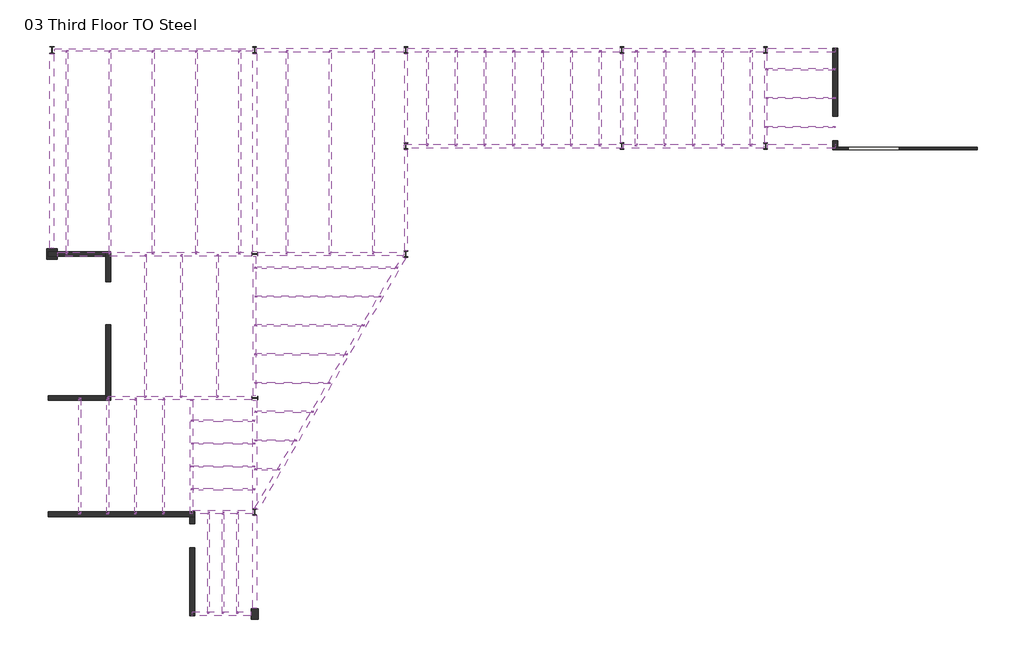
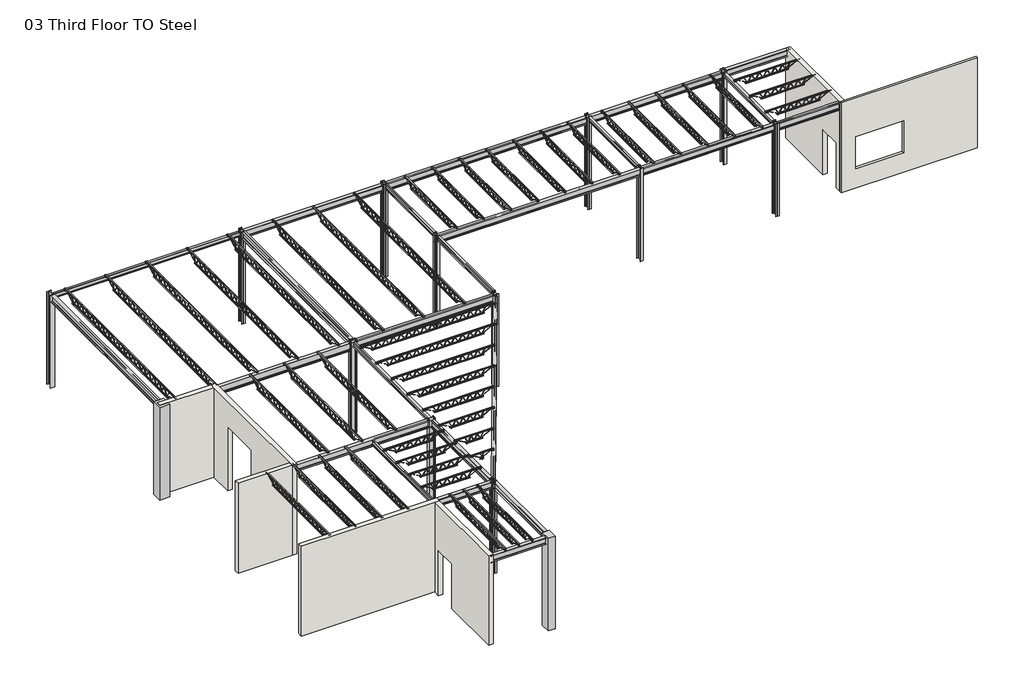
# One storey: 69 beams, 14 columns, 7 walls.
"""IFC4 building model written with IfcOpenShell, lengths in millimetres."""

from ifc_helpers import new_model, si_unit, frame, origin, place, context, project, spatial, polyline, outline, extrude, faceted_brep, transform, mapped, element, save
from components import k_series_bar_joist_angle_web_12k3_1ccca6b7, k_series_bar_joist_angle_web_12k3_cd6388da, k_series_bar_joist_angle_web_12k3_9aaf8e6d, k_series_bar_joist_angle_web_12k3_13094d3f, k_series_bar_joist_angle_web_12k3_59fd12ad, k_series_bar_joist_angle_web_12k3_20b2fc65, k_series_bar_joist_angle_web_12k3_ae5ab345, k_series_bar_joist_angle_web_12k3_0c52efd9, k_series_bar_joist_angle_web_12k3_6a532fcc, k_series_bar_joist_angle_web_12k3_6eb7fb9a, k_series_bar_joist_angle_web_12k3_374ad39a, k_series_bar_joist_angle_web_12k3_390ba880, k_series_bar_joist_angle_web_12k3_b1730def, k_series_bar_joist_angle_web_14k6_9ea650d1, k_series_bar_joist_angle_web_14k6_8be7365d, w_wide_flange_w12x26_9fd3e897, w_wide_flange_w12x26_f21817d3, w_wide_flange_w12x26_d3ba76c9, w_wide_flange_w12x26_1a46e80d, w_wide_flange_w12x26_7af0cc8f, w_wide_flange_w12x26_e92df5a3, w_wide_flange_w12x26_cbf4b631, w_wide_flange_w12x26_772186aa, w_wide_flange_w12x26_89bd5c3d, w_wide_flange_w12x26_dadc119a, w_wide_flange_w12x26_59120017, w_wide_flange_w12x26_bc60cd37, w_wide_flange_w12x26_1f94d798, w_wide_flange_w12x26_34b74df3, w_wide_flange_w14x30_5dc0e07a, w_wide_flange_w8x10_abd37cec, w_wide_flange_w8x10_7498d693, w_wide_flange_w8x10_dd5fc601, w_wide_flange_w8x10_8f1412b7, w_wide_flange_w8x10_b6c3ab94, column_3cd15463, column_094be883, w_wide_flange_column_w10x30_b382757e, w_wide_flange_column_w12x40_bfb7e602

model = new_model("IFC4")

# Units and contexts
model_context = context("Model", 3, world=origin())
ifc_project = project(units=[si_unit("LENGTHUNIT", "METRE", prefix="MILLI")], contexts=[model_context])

# Site, building, storey
site = spatial("IfcSite", under=ifc_project)
building = spatial("IfcBuilding", under=site)
storey = spatial("IfcBuildingStorey", under=building, Name="03 Third Floor TO Steel", Elevation=9017.0)

# Beams
placement = place(None, origin())
k_series_bar_joist_angle_web_12k3_shape = k_series_bar_joist_angle_web_12k3_1ccca6b7(model_context)
element("IfcBeam", 1, ObjectType="K-Series Bar Joist-Angle Web : 12K3", at=placement, inside=storey, context=model_context, shape_type="MappedRepresentation", body=[
    mapped(k_series_bar_joist_angle_web_12k3_shape, transform((3946.8726301, 6964.1746638, 13258.8), x_axis=(0.0, -1.0, 0.0), y_axis=(1.0, 0.0, 0.0), z_axis=(0.0, 0.0, 1.0))),
])
element("IfcBeam", 2, ObjectType="K-Series Bar Joist-Angle Web : 12K3", at=placement, inside=storey, context=model_context, shape_type="MappedRepresentation", body=[
    mapped(k_series_bar_joist_angle_web_12k3_shape, transform((2727.6726301, 6964.1746638, 13258.8), x_axis=(0.0, -1.0, 0.0), y_axis=(1.0, 0.0, 0.0), z_axis=(0.0, 0.0, 1.0))),
])
element("IfcBeam", 3, ObjectType="K-Series Bar Joist-Angle Web : 12K3", at=placement, inside=storey, context=model_context, shape_type="MappedRepresentation", body=[
    mapped(k_series_bar_joist_angle_web_12k3_shape, transform((1508.4726301, 6964.1746638, 13258.8), x_axis=(0.0, -1.0, 0.0), y_axis=(1.0, 0.0, 0.0), z_axis=(0.0, 0.0, 1.0))),
])
element("IfcBeam", 4, ObjectType="K-Series Bar Joist-Angle Web : 12K3", at=placement, inside=storey, context=model_context, shape_type="MappedRepresentation", body=[
    mapped(k_series_bar_joist_angle_web_12k3_shape, transform((289.2726301, 6964.1746638, 13258.8), x_axis=(0.0, -1.0, 0.0), y_axis=(1.0, 0.0, 0.0), z_axis=(0.0, 0.0, 1.0))),
])
element("IfcBeam", 5, ObjectType="K-Series Bar Joist-Angle Web : 12K3", at=placement, inside=storey, context=model_context, shape_type="MappedRepresentation", body=[
    mapped(k_series_bar_joist_angle_web_12k3_shape, transform((-929.9273699, 6964.1746638, 13258.8), x_axis=(0.0, -1.0, 0.0), y_axis=(1.0, 0.0, 0.0), z_axis=(0.0, 0.0, 1.0))),
])
element("IfcBeam", 6, ObjectType="K-Series Bar Joist-Angle Web : 12K3", at=placement, inside=storey, context=model_context, shape_type="MappedRepresentation", body=[
    mapped(k_series_bar_joist_angle_web_12k3_shape, transform((-2149.1273699, 6964.1746638, 13258.8), x_axis=(0.0, -1.0, 0.0), y_axis=(1.0, 0.0, 0.0), z_axis=(0.0, 0.0, 1.0))),
])
element("IfcBeam", 7, ObjectType="K-Series Bar Joist-Angle Web : 12K3", at=placement, inside=storey, context=model_context, shape_type="MappedRepresentation", body=[
    mapped(k_series_bar_joist_angle_web_12k3_shape, transform((-3368.3273699, 6964.1746638, 13258.8), x_axis=(0.0, -1.0, 0.0), y_axis=(1.0, 0.0, 0.0), z_axis=(0.0, 0.0, 1.0))),
])
element("IfcBeam", 8, ObjectType="K-Series Bar Joist-Angle Web : 12K3", at=placement, inside=storey, context=model_context, shape_type="MappedRepresentation", body=[
    mapped(k_series_bar_joist_angle_web_12k3_shape, transform((10347.6726301, 6964.1746638, 13258.8), x_axis=(0.0, -1.0, 0.0), y_axis=(1.0, 0.0, 0.0), z_axis=(0.0, 0.0, 1.0))),
])
element("IfcBeam", 9, ObjectType="K-Series Bar Joist-Angle Web : 12K3", at=placement, inside=storey, context=model_context, shape_type="MappedRepresentation", body=[
    mapped(k_series_bar_joist_angle_web_12k3_shape, transform((9128.4726301, 6964.1746638, 13258.8), x_axis=(0.0, -1.0, 0.0), y_axis=(1.0, 0.0, 0.0), z_axis=(0.0, 0.0, 1.0))),
])
element("IfcBeam", 10, ObjectType="K-Series Bar Joist-Angle Web : 12K3", at=placement, inside=storey, context=model_context, shape_type="MappedRepresentation", body=[
    mapped(k_series_bar_joist_angle_web_12k3_shape, transform((7909.2726301, 6964.1746638, 13258.8), x_axis=(0.0, -1.0, 0.0), y_axis=(1.0, 0.0, 0.0), z_axis=(0.0, 0.0, 1.0))),
])
element("IfcBeam", 11, ObjectType="K-Series Bar Joist-Angle Web : 12K3", at=placement, inside=storey, context=model_context, shape_type="MappedRepresentation", body=[
    mapped(k_series_bar_joist_angle_web_12k3_shape, transform((6690.0726301, 6964.1746638, 13258.8), x_axis=(0.0, -1.0, 0.0), y_axis=(1.0, 0.0, 0.0), z_axis=(0.0, 0.0, 1.0))),
])
element("IfcBeam", 12, ObjectType="K-Series Bar Joist-Angle Web : 12K3", at=placement, inside=storey, context=model_context, shape_type="MappedRepresentation", body=[
    mapped(k_series_bar_joist_angle_web_12k3_shape, transform((5470.8726301, 6964.1746638, 13258.8), x_axis=(0.0, -1.0, 0.0), y_axis=(1.0, 0.0, 0.0), z_axis=(0.0, 0.0, 1.0))),
])
k_series_bar_joist_angle_web_12k3_2_shape = k_series_bar_joist_angle_web_12k3_cd6388da(model_context)
element("IfcBeam", 13, ObjectType="K-Series Bar Joist-Angle Web : 12K3", at=placement, inside=storey, context=model_context, shape_type="MappedRepresentation", body=[
    mapped(k_series_bar_joist_angle_web_12k3_2_shape, transform((-12634.1838699, -12720.8253362, 13258.8), x_axis=(0.0, 1.0, 0.0), y_axis=(-1.0, 0.0, 0.0), z_axis=(0.0, 0.0, 1.0))),
])
element("IfcBeam", 14, ObjectType="K-Series Bar Joist-Angle Web : 12K3", at=placement, inside=storey, context=model_context, shape_type="MappedRepresentation", body=[
    mapped(k_series_bar_joist_angle_web_12k3_2_shape, transform((-12024.5838699, -12720.8253362, 13258.8), x_axis=(0.0, 1.0, 0.0), y_axis=(-1.0, 0.0, 0.0), z_axis=(0.0, 0.0, 1.0))),
])
element("IfcBeam", 15, ObjectType="K-Series Bar Joist-Angle Web : 12K3", at=placement, inside=storey, context=model_context, shape_type="MappedRepresentation", body=[
    mapped(k_series_bar_joist_angle_web_12k3_2_shape, transform((-11414.9838699, -12720.8253362, 13258.8), x_axis=(0.0, 1.0, 0.0), y_axis=(-1.0, 0.0, 0.0), z_axis=(0.0, 0.0, 1.0))),
])
k_series_bar_joist_angle_web_12k3_3_shape = k_series_bar_joist_angle_web_12k3_9aaf8e6d(model_context)
element("IfcBeam", 16, ObjectType="K-Series Bar Joist-Angle Web : 12K3", at=placement, inside=storey, context=model_context, shape_type="MappedRepresentation", body=[
    mapped(k_series_bar_joist_angle_web_12k3_3_shape, transform((-12023.1233699, -6701.0253362, 13258.8), x_axis=(1.0, 0.0, 0.0), y_axis=(0.0, 1.0, 0.0), z_axis=(0.0, 0.0, 1.0))),
])
element("IfcBeam", 17, ObjectType="K-Series Bar Joist-Angle Web : 12K3", at=placement, inside=storey, context=model_context, shape_type="MappedRepresentation", body=[
    mapped(k_series_bar_joist_angle_web_12k3_3_shape, transform((-12023.1233699, -7666.2253362, 13258.8), x_axis=(1.0, 0.0, 0.0), y_axis=(0.0, 1.0, 0.0), z_axis=(0.0, 0.0, 1.0))),
])
element("IfcBeam", 18, ObjectType="K-Series Bar Joist-Angle Web : 12K3", at=placement, inside=storey, context=model_context, shape_type="MappedRepresentation", body=[
    mapped(k_series_bar_joist_angle_web_12k3_3_shape, transform((-12023.1233699, -8631.4253362, 13258.8), x_axis=(1.0, 0.0, 0.0), y_axis=(0.0, 1.0, 0.0), z_axis=(0.0, 0.0, 1.0))),
])
element("IfcBeam", 19, ObjectType="K-Series Bar Joist-Angle Web : 12K3", at=placement, inside=storey, context=model_context, shape_type="MappedRepresentation", body=[
    mapped(k_series_bar_joist_angle_web_12k3_3_shape, transform((-12023.1233699, -9596.6253362, 13258.8), x_axis=(1.0, 0.0, 0.0), y_axis=(0.0, 1.0, 0.0), z_axis=(0.0, 0.0, 1.0))),
])
k_series_bar_joist_angle_web_12k3_4_shape = k_series_bar_joist_angle_web_12k3_13094d3f(model_context)
element("IfcBeam", 20, ObjectType="K-Series Bar Joist-Angle Web : 12K3", at=placement, inside=storey, context=model_context, shape_type="MappedRepresentation", body=[
    mapped(k_series_bar_joist_angle_web_12k3_4_shape, transform((12430.4726301, 8183.3746638, 13258.8), x_axis=(1.0, 0.0, 0.0), y_axis=(0.0, 1.0, 0.0), z_axis=(0.0, 0.0, 1.0))),
])
element("IfcBeam", 21, ObjectType="K-Series Bar Joist-Angle Web : 12K3", at=placement, inside=storey, context=model_context, shape_type="MappedRepresentation", body=[
    mapped(k_series_bar_joist_angle_web_12k3_4_shape, transform((12430.4726301, 6964.1746638, 13258.8), x_axis=(1.0, 0.0, 0.0), y_axis=(0.0, 1.0, 0.0), z_axis=(0.0, 0.0, 1.0))),
])
element("IfcBeam", 22, ObjectType="K-Series Bar Joist-Angle Web : 12K3", at=placement, inside=storey, context=model_context, shape_type="MappedRepresentation", body=[
    mapped(k_series_bar_joist_angle_web_12k3_4_shape, transform((12430.4726301, 5744.9746638, 13258.8), x_axis=(1.0, 0.0, 0.0), y_axis=(0.0, 1.0, 0.0), z_axis=(0.0, 0.0, 1.0))),
])
k_series_bar_joist_angle_web_12k3_5_shape = k_series_bar_joist_angle_web_12k3_59fd12ad(model_context)
element("IfcBeam", 23, ObjectType="K-Series Bar Joist-Angle Web : 12K3", at=placement, inside=storey, context=model_context, shape_type="MappedRepresentation", body=[
    mapped(k_series_bar_joist_angle_web_12k3_5_shape, transform((-18088.1099699, -8199.6253362, 13258.8), x_axis=(0.0, 1.0, 0.0), y_axis=(-1.0, 0.0, 0.0), z_axis=(0.0, 0.0, 1.0))),
])
element("IfcBeam", 24, ObjectType="K-Series Bar Joist-Angle Web : 12K3", at=placement, inside=storey, context=model_context, shape_type="MappedRepresentation", body=[
    mapped(k_series_bar_joist_angle_web_12k3_5_shape, transform((-16907.4925699, -8199.6253362, 13258.8), x_axis=(0.0, 1.0, 0.0), y_axis=(-1.0, 0.0, 0.0), z_axis=(0.0, 0.0, 1.0))),
])
element("IfcBeam", 25, ObjectType="K-Series Bar Joist-Angle Web : 12K3", at=placement, inside=storey, context=model_context, shape_type="MappedRepresentation", body=[
    mapped(k_series_bar_joist_angle_web_12k3_5_shape, transform((-15726.8751699, -8199.6253362, 13258.8), x_axis=(0.0, 1.0, 0.0), y_axis=(-1.0, 0.0, 0.0), z_axis=(0.0, 0.0, 1.0))),
])
element("IfcBeam", 26, ObjectType="K-Series Bar Joist-Angle Web : 12K3", at=placement, inside=storey, context=model_context, shape_type="MappedRepresentation", body=[
    mapped(k_series_bar_joist_angle_web_12k3_5_shape, transform((-14546.2577699, -8199.6253362, 13258.8), x_axis=(0.0, 1.0, 0.0), y_axis=(-1.0, 0.0, 0.0), z_axis=(0.0, 0.0, 1.0))),
])
k_series_bar_joist_angle_web_12k3_6_shape = k_series_bar_joist_angle_web_12k3_20b2fc65(model_context)
element("IfcBeam", 27, ObjectType="K-Series Bar Joist-Angle Web : 12K3", at=placement, inside=storey, context=model_context, shape_type="MappedRepresentation", body=[
    mapped(k_series_bar_joist_angle_web_12k3_6_shape, transform((-10152.8984804, -8755.9332132, 13258.8), x_axis=(-1.0, 0.0, 0.0), y_axis=(0.0, -1.0, 0.0), z_axis=(0.0, 0.0, 1.0))),
])
k_series_bar_joist_angle_web_12k3_7_shape = k_series_bar_joist_angle_web_12k3_ae5ab345(model_context)
element("IfcBeam", 28, ObjectType="K-Series Bar Joist-Angle Web : 12K3", at=placement, inside=storey, context=model_context, shape_type="MappedRepresentation", body=[
    mapped(k_series_bar_joist_angle_web_12k3_7_shape, transform((-9795.6445269, -7536.7332132, 13258.8), x_axis=(-1.0, 0.0, 0.0), y_axis=(0.0, -1.0, 0.0), z_axis=(0.0, 0.0, 1.0))),
])
k_series_bar_joist_angle_web_12k3_8_shape = k_series_bar_joist_angle_web_12k3_0c52efd9(model_context)
element("IfcBeam", 29, ObjectType="K-Series Bar Joist-Angle Web : 12K3", at=placement, inside=storey, context=model_context, shape_type="MappedRepresentation", body=[
    mapped(k_series_bar_joist_angle_web_12k3_8_shape, transform((-9438.3905734, -6317.5332132, 13258.8), x_axis=(-1.0, 0.0, 0.0), y_axis=(0.0, -1.0, 0.0), z_axis=(0.0, 0.0, 1.0))),
])
k_series_bar_joist_angle_web_12k3_9_shape = k_series_bar_joist_angle_web_12k3_6a532fcc(model_context)
element("IfcBeam", 30, ObjectType="K-Series Bar Joist-Angle Web : 12K3", at=placement, inside=storey, context=model_context, shape_type="MappedRepresentation", body=[
    mapped(k_series_bar_joist_angle_web_12k3_9_shape, transform((-9083.6766199, -5098.3332132, 13258.8), x_axis=(-1.0, 0.0, 0.0), y_axis=(0.0, -1.0, 0.0), z_axis=(0.0, 0.0, 1.0))),
])
k_series_bar_joist_angle_web_12k3_10_shape = k_series_bar_joist_angle_web_12k3_6eb7fb9a(model_context)
element("IfcBeam", 31, ObjectType="K-Series Bar Joist-Angle Web : 12K3", at=placement, inside=storey, context=model_context, shape_type="MappedRepresentation", body=[
    mapped(k_series_bar_joist_angle_web_12k3_10_shape, transform((-8726.4226665, -3879.1332132, 13258.8), x_axis=(-1.0, 0.0, 0.0), y_axis=(0.0, -1.0, 0.0), z_axis=(0.0, 0.0, 1.0))),
])
k_series_bar_joist_angle_web_12k3_11_shape = k_series_bar_joist_angle_web_12k3_374ad39a(model_context)
element("IfcBeam", 32, ObjectType="K-Series Bar Joist-Angle Web : 12K3", at=placement, inside=storey, context=model_context, shape_type="MappedRepresentation", body=[
    mapped(k_series_bar_joist_angle_web_12k3_11_shape, transform((-8369.168713, -2659.9332132, 13258.8), x_axis=(-1.0, 0.0, 0.0), y_axis=(0.0, -1.0, 0.0), z_axis=(0.0, 0.0, 1.0))),
])
k_series_bar_joist_angle_web_12k3_12_shape = k_series_bar_joist_angle_web_12k3_390ba880(model_context)
element("IfcBeam", 33, ObjectType="K-Series Bar Joist-Angle Web : 12K3", at=placement, inside=storey, context=model_context, shape_type="MappedRepresentation", body=[
    mapped(k_series_bar_joist_angle_web_12k3_12_shape, transform((-8011.9147595, -1440.7332132, 13258.8), x_axis=(-1.0, 0.0, 0.0), y_axis=(0.0, -1.0, 0.0), z_axis=(0.0, 0.0, 1.0))),
])
k_series_bar_joist_angle_web_12k3_13_shape = k_series_bar_joist_angle_web_12k3_b1730def(model_context)
element("IfcBeam", 34, ObjectType="K-Series Bar Joist-Angle Web : 12K3", at=placement, inside=storey, context=model_context, shape_type="MappedRepresentation", body=[
    mapped(k_series_bar_joist_angle_web_12k3_13_shape, transform((-7654.660806, -221.5332132, 13258.8), x_axis=(-1.0, 0.0, 0.0), y_axis=(0.0, -1.0, 0.0), z_axis=(0.0, 0.0, 1.0))),
])
k_series_bar_joist_angle_web_14k6_shape = k_series_bar_joist_angle_web_14k6_9ea650d1(model_context)
element("IfcBeam", 35, ObjectType="K-Series Bar Joist-Angle Web : 14K6", at=placement, inside=storey, context=model_context, shape_type="MappedRepresentation", body=[
    mapped(k_series_bar_joist_angle_web_14k6_shape, transform((-9311.9273699, 4678.1746638, 13233.4), x_axis=(0.0, 1.0, 0.0), y_axis=(-1.0, 0.0, 0.0), z_axis=(0.0, 0.0, 1.0))),
])
element("IfcBeam", 36, ObjectType="K-Series Bar Joist-Angle Web : 14K6", at=placement, inside=storey, context=model_context, shape_type="MappedRepresentation", body=[
    mapped(k_series_bar_joist_angle_web_14k6_shape, transform((-7483.1273699, 4678.1746638, 13233.4), x_axis=(0.0, 1.0, 0.0), y_axis=(-1.0, 0.0, 0.0), z_axis=(0.0, 0.0, 1.0))),
])
element("IfcBeam", 37, ObjectType="K-Series Bar Joist-Angle Web : 14K6", at=placement, inside=storey, context=model_context, shape_type="MappedRepresentation", body=[
    mapped(k_series_bar_joist_angle_web_14k6_shape, transform((-5654.3273699, 4678.1746638, 13233.4), x_axis=(0.0, 1.0, 0.0), y_axis=(-1.0, 0.0, 0.0), z_axis=(0.0, 0.0, 1.0))),
])
k_series_bar_joist_angle_web_14k6_2_shape = k_series_bar_joist_angle_web_14k6_8be7365d(model_context)
element("IfcBeam", 38, ObjectType="K-Series Bar Joist-Angle Web : 14K6", at=placement, inside=storey, context=model_context, shape_type="MappedRepresentation", body=[
    mapped(k_series_bar_joist_angle_web_14k6_2_shape, transform((-12258.3273699, -2687.8253362, 13233.4), x_axis=(0.0, -1.0, 0.0), y_axis=(1.0, 0.0, 0.0), z_axis=(0.0, 0.0, 1.0))),
])
element("IfcBeam", 39, ObjectType="K-Series Bar Joist-Angle Web : 14K6", at=placement, inside=storey, context=model_context, shape_type="MappedRepresentation", body=[
    mapped(k_series_bar_joist_angle_web_14k6_2_shape, transform((-13782.3273699, -2687.8253362, 13233.4), x_axis=(0.0, -1.0, 0.0), y_axis=(1.0, 0.0, 0.0), z_axis=(0.0, 0.0, 1.0))),
])
element("IfcBeam", 40, ObjectType="K-Series Bar Joist-Angle Web : 14K6", at=placement, inside=storey, context=model_context, shape_type="MappedRepresentation", body=[
    mapped(k_series_bar_joist_angle_web_14k6_2_shape, transform((-15306.3273699, -2687.8253362, 13233.4), x_axis=(0.0, -1.0, 0.0), y_axis=(1.0, 0.0, 0.0), z_axis=(0.0, 0.0, 1.0))),
])
element("IfcBeam", 41, ObjectType="K-Series Bar Joist-Angle Web : 14K6", at=placement, inside=storey, context=model_context, shape_type="MappedRepresentation", body=[
    mapped(k_series_bar_joist_angle_web_14k6_shape, transform((-18633.7273699, 4678.1746638, 13233.4), x_axis=(0.0, 1.0, 0.0), y_axis=(-1.0, 0.0, 0.0), z_axis=(0.0, 0.0, 1.0))),
])
element("IfcBeam", 42, ObjectType="K-Series Bar Joist-Angle Web : 14K6", at=placement, inside=storey, context=model_context, shape_type="MappedRepresentation", body=[
    mapped(k_series_bar_joist_angle_web_14k6_shape, transform((-16804.9273699, 4678.1746638, 13233.4), x_axis=(0.0, 1.0, 0.0), y_axis=(-1.0, 0.0, 0.0), z_axis=(0.0, 0.0, 1.0))),
])
element("IfcBeam", 43, ObjectType="K-Series Bar Joist-Angle Web : 14K6", at=placement, inside=storey, context=model_context, shape_type="MappedRepresentation", body=[
    mapped(k_series_bar_joist_angle_web_14k6_shape, transform((-14976.1273699, 4678.1746638, 13233.4), x_axis=(0.0, 1.0, 0.0), y_axis=(-1.0, 0.0, 0.0), z_axis=(0.0, 0.0, 1.0))),
])
element("IfcBeam", 44, ObjectType="K-Series Bar Joist-Angle Web : 14K6", at=placement, inside=storey, context=model_context, shape_type="MappedRepresentation", body=[
    mapped(k_series_bar_joist_angle_web_14k6_shape, transform((-13147.3273699, 4678.1746638, 13233.4), x_axis=(0.0, 1.0, 0.0), y_axis=(-1.0, 0.0, 0.0), z_axis=(0.0, 0.0, 1.0))),
])
element("IfcBeam", 45, ObjectType="K-Series Bar Joist-Angle Web : 14K6", at=placement, inside=storey, context=model_context, shape_type="MappedRepresentation", body=[
    mapped(k_series_bar_joist_angle_web_14k6_shape, transform((-11318.5273699, 4678.1746638, 13233.4), x_axis=(0.0, 1.0, 0.0), y_axis=(-1.0, 0.0, 0.0), z_axis=(0.0, 0.0, 1.0))),
])
w_wide_flange_w12x26_shape = w_wide_flange_w12x26_9fd3e897(model_context)
element("IfcBeam", 46, ObjectType="W-Wide Flange : W12x26", at=placement, inside=storey, context=model_context, shape_type="MappedRepresentation", body=[
    mapped(w_wide_flange_w12x26_shape, transform((7909.2726301, 8996.1746638, 13192.76), x_axis=(1.0, 0.0, 0.0), y_axis=(0.0, 1.0, 0.0), z_axis=(0.0, 0.0, 1.0))),
])
element("IfcBeam", 47, ObjectType="W-Wide Flange : W12x26", at=placement, inside=storey, context=model_context, shape_type="MappedRepresentation", body=[
    mapped(w_wide_flange_w12x26_shape, transform((7909.2726301, 4932.1746638, 13192.76), x_axis=(1.0, 0.0, 0.0), y_axis=(0.0, 1.0, 0.0), z_axis=(0.0, 0.0, 1.0))),
])
w_wide_flange_w12x26_2_shape = w_wide_flange_w12x26_f21817d3(model_context)
element("IfcBeam", 48, ObjectType="W-Wide Flange : W12x26", at=placement, inside=storey, context=model_context, shape_type="MappedRepresentation", body=[
    mapped(w_wide_flange_w12x26_2_shape, transform((-7457.7273699, 8996.1746638, 13192.76), x_axis=(1.0, 0.0, 0.0), y_axis=(0.0, 1.0, 0.0), z_axis=(0.0, 0.0, 1.0))),
])
w_wide_flange_w12x26_3_shape = w_wide_flange_w12x26_d3ba76c9(model_context)
element("IfcBeam", 49, ObjectType="W-Wide Flange : W12x26", at=placement, inside=storey, context=model_context, shape_type="MappedRepresentation", body=[
    mapped(w_wide_flange_w12x26_3_shape, transform((-10680.6063699, -8150.0215712, 13192.76), x_axis=(0.0, -1.0, 0.0), y_axis=(1.0, 0.0, 0.0), z_axis=(0.0, 0.0, 1.0))),
])
w_wide_flange_w12x26_4_shape = w_wide_flange_w12x26_1a46e80d(model_context)
element("IfcBeam", 50, ObjectType="W-Wide Flange : W12x26", at=placement, inside=storey, context=model_context, shape_type="MappedRepresentation", body=[
    mapped(w_wide_flange_w12x26_4_shape, transform((289.2726301, 4932.1746638, 13192.76), x_axis=(1.0, 0.0, 0.0), y_axis=(0.0, 1.0, 0.0), z_axis=(0.0, 0.0, 1.0))),
])
w_wide_flange_w12x26_5_shape = w_wide_flange_w12x26_7af0cc8f(model_context)
element("IfcBeam", 51, ObjectType="W-Wide Flange : W12x26", at=placement, inside=storey, context=model_context, shape_type="MappedRepresentation", body=[
    mapped(w_wide_flange_w12x26_5_shape, transform((-19268.7273699, 4678.1746638, 13256.26), x_axis=(0.0, 1.0, 0.0), y_axis=(-1.0, 0.0, 0.0), z_axis=(0.0, 0.0, 1.0))),
])
w_wide_flange_w12x26_6_shape = w_wide_flange_w12x26_e92df5a3(model_context)
element("IfcBeam", 52, ObjectType="W-Wide Flange : W12x26", at=placement, inside=storey, context=model_context, shape_type="MappedRepresentation", body=[
    mapped(w_wide_flange_w12x26_6_shape, transform((-12004.3273699, -14879.8253362, 13192.76), x_axis=(-1.0, 0.0, 0.0), y_axis=(0.0, -1.0, 0.0), z_axis=(0.0, 0.0, 1.0))),
])
w_wide_flange_w12x26_7_shape = w_wide_flange_w12x26_cbf4b631(model_context)
element("IfcBeam", 53, ObjectType="W-Wide Flange : W12x26", at=placement, inside=storey, context=model_context, shape_type="MappedRepresentation", body=[
    mapped(w_wide_flange_w12x26_7_shape, transform((12430.4726301, 8996.1746638, 13256.26), x_axis=(1.0, 0.0, 0.0), y_axis=(0.0, 1.0, 0.0), z_axis=(0.0, 0.0, 1.0))),
])
element("IfcBeam", 54, ObjectType="W-Wide Flange : W12x26", at=placement, inside=storey, context=model_context, shape_type="MappedRepresentation", body=[
    mapped(w_wide_flange_w12x26_7_shape, transform((12430.4726301, 4932.1746638, 13192.76), x_axis=(1.0, 0.0, 0.0), y_axis=(0.0, 1.0, 0.0), z_axis=(0.0, 0.0, 1.0))),
])
w_wide_flange_w12x26_8_shape = w_wide_flange_w12x26_772186aa(model_context)
element("IfcBeam", 55, ObjectType="W-Wide Flange : W12x26", at=placement, inside=storey, context=model_context, shape_type="MappedRepresentation", body=[
    mapped(w_wide_flange_w12x26_8_shape, transform((-13718.8273699, -5735.8253362, 13192.76), x_axis=(-1.0, 0.0, 0.0), y_axis=(0.0, -1.0, 0.0), z_axis=(0.0, 0.0, 1.0))),
])
w_wide_flange_w12x26_9_shape = w_wide_flange_w12x26_89bd5c3d(model_context)
element("IfcBeam", 56, ObjectType="W-Wide Flange : W12x26", at=placement, inside=storey, context=model_context, shape_type="MappedRepresentation", body=[
    mapped(w_wide_flange_w12x26_9_shape, transform((-11999.1838699, -10561.8253362, 13192.76), x_axis=(-1.0, 0.0, 0.0), y_axis=(0.0, -1.0, 0.0), z_axis=(0.0, 0.0, 1.0))),
])
w_wide_flange_w12x26_10_shape = w_wide_flange_w12x26_dadc119a(model_context)
element("IfcBeam", 57, ObjectType="W-Wide Flange : W12x26", at=placement, inside=storey, context=model_context, shape_type="MappedRepresentation", body=[
    mapped(w_wide_flange_w12x26_10_shape, transform((-10686.4483699, -12720.6931113, 13256.26), x_axis=(0.0, 1.0, 0.0), y_axis=(-1.0, 0.0, 0.0), z_axis=(0.0, 0.0, 1.0))),
])
w_wide_flange_w12x26_11_shape = w_wide_flange_w12x26_59120017(model_context)
element("IfcBeam", 58, ObjectType="W-Wide Flange : W12x26", at=placement, inside=storey, context=model_context, shape_type="MappedRepresentation", body=[
    mapped(w_wide_flange_w12x26_11_shape, transform((289.2726301, 8996.1746638, 13192.76), x_axis=(1.0, 0.0, 0.0), y_axis=(0.0, 1.0, 0.0), z_axis=(0.0, 0.0, 1.0))),
])
w_wide_flange_w12x26_12_shape = w_wide_flange_w12x26_bc60cd37(model_context)
element("IfcBeam", 59, ObjectType="W-Wide Flange : W12x26", at=placement, inside=storey, context=model_context, shape_type="MappedRepresentation", body=[
    mapped(w_wide_flange_w12x26_12_shape, transform((-7483.1273699, 360.1746638, 13192.76), x_axis=(-1.0, 0.0, 0.0), y_axis=(0.0, -1.0, 0.0), z_axis=(0.0, 0.0, 1.0))),
])
w_wide_flange_w12x26_13_shape = w_wide_flange_w12x26_1f94d798(model_context)
element("IfcBeam", 60, ObjectType="W-Wide Flange : W12x26", at=placement, inside=storey, context=model_context, shape_type="MappedRepresentation", body=[
    mapped(w_wide_flange_w12x26_13_shape, transform((-7483.1273699, -5100.8253362, 13192.76), x_axis=(0.5056165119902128, 0.862758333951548, 0.0), y_axis=(-0.862758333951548, 0.5056165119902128, 0.0), z_axis=(0.0, 0.0, 1.0))),
])
w_wide_flange_w12x26_14_shape = w_wide_flange_w12x26_34b74df3(model_context)
element("IfcBeam", 61, ObjectType="W-Wide Flange : W12x26", at=placement, inside=storey, context=model_context, shape_type="MappedRepresentation", body=[
    mapped(w_wide_flange_w12x26_14_shape, transform((-10686.9563699, 4678.2392838, 13256.26), x_axis=(0.0, 1.0, 0.0), y_axis=(-1.0, 0.0, 0.0), z_axis=(0.0, 0.0, 1.0))),
])
w_wide_flange_w14x30_shape = w_wide_flange_w14x30_5dc0e07a(model_context)
element("IfcBeam", 62, ObjectType="W-Wide Flange : W14x30", at=placement, inside=storey, context=model_context, shape_type="MappedRepresentation", body=[
    mapped(w_wide_flange_w14x30_shape, transform((-14976.1273699, 360.1746638, 13172.44), x_axis=(-1.0, 0.0, 0.0), y_axis=(0.0, -1.0, 0.0), z_axis=(0.0, 0.0, 1.0))),
])
w_wide_flange_w8x10_shape = w_wide_flange_w8x10_abd37cec(model_context)
element("IfcBeam", 63, ObjectType="W-Wide Flange : W8x10", at=placement, inside=storey, context=model_context, shape_type="MappedRepresentation", body=[
    mapped(w_wide_flange_w8x10_shape, transform((-4282.7273699, 6964.1746638, 13310.997), x_axis=(0.0, -1.0, 0.0), y_axis=(1.0, 0.0, 0.0), z_axis=(0.0, 0.0, 1.0))),
])
element("IfcBeam", 64, ObjectType="W-Wide Flange : W8x10", at=placement, inside=storey, context=model_context, shape_type="MappedRepresentation", body=[
    mapped(w_wide_flange_w8x10_shape, transform((4861.2726301, 6964.1746638, 13310.997), x_axis=(0.0, -1.0, 0.0), y_axis=(1.0, 0.0, 0.0), z_axis=(0.0, 0.0, 1.0))),
])
element("IfcBeam", 65, ObjectType="W-Wide Flange : W8x10", at=placement, inside=storey, context=model_context, shape_type="MappedRepresentation", body=[
    mapped(w_wide_flange_w8x10_shape, transform((10957.2726301, 6964.1746638, 13247.497), x_axis=(0.0, -1.0, 0.0), y_axis=(1.0, 0.0, 0.0), z_axis=(0.0, 0.0, 1.0))),
])
w_wide_flange_w8x10_2_shape = w_wide_flange_w8x10_7498d693(model_context)
element("IfcBeam", 66, ObjectType="W-Wide Flange : W8x10", at=placement, inside=storey, context=model_context, shape_type="MappedRepresentation", body=[
    mapped(w_wide_flange_w8x10_2_shape, transform((-4282.7273699, 2646.1746638, 13310.997), x_axis=(0.0, 1.0, 0.0), y_axis=(-1.0, 0.0, 0.0), z_axis=(0.0, 0.0, 1.0))),
])
w_wide_flange_w8x10_3_shape = w_wide_flange_w8x10_dd5fc601(model_context)
element("IfcBeam", 67, ObjectType="W-Wide Flange : W8x10", at=placement, inside=storey, context=model_context, shape_type="MappedRepresentation", body=[
    mapped(w_wide_flange_w8x10_3_shape, transform((-10685.6863699, -2688.4642356, 13247.497), x_axis=(0.0, 1.0, 0.0), y_axis=(-1.0, 0.0, 0.0), z_axis=(0.0, 0.0, 1.0))),
])
w_wide_flange_w8x10_4_shape = w_wide_flange_w8x10_8f1412b7(model_context)
element("IfcBeam", 68, ObjectType="W-Wide Flange : W8x10", at=placement, inside=storey, context=model_context, shape_type="MappedRepresentation", body=[
    mapped(w_wide_flange_w8x10_4_shape, transform((-13365.6403699, -8148.8253362, 13247.497), x_axis=(0.0, 1.0, 0.0), y_axis=(-1.0, 0.0, 0.0), z_axis=(0.0, 0.0, 1.0))),
])
w_wide_flange_w8x10_5_shape = w_wide_flange_w8x10_b6c3ab94(model_context)
element("IfcBeam", 69, ObjectType="W-Wide Flange : W8x10", at=placement, inside=storey, context=model_context, shape_type="MappedRepresentation", body=[
    mapped(w_wide_flange_w8x10_5_shape, transform((-14950.7273699, 8996.1746638, 13247.497), x_axis=(1.0, 0.0, 0.0), y_axis=(0.0, 1.0, 0.0), z_axis=(0.0, 0.0, 1.0))),
])

# Columns
column_shape = column_3cd15463(model_context)
element("IfcColumn", 70, ObjectType="Concrete-Rectangular-Column : CIP Column_C2_18\" x 18\"", at=placement, inside=storey, context=model_context, shape_type="MappedRepresentation", body=[
    mapped(column_shape, transform((-19268.7273699, 360.1746638, 0.0), x_axis=(1.0, 0.0, 0.0), y_axis=(0.0, 1.0, 0.0), z_axis=(0.0, 0.0, 1.0))),
])
column_2_shape = column_094be883(model_context)
element("IfcColumn", 71, ObjectType="Concrete-Rectangular-Column : CIP Column_C4_12\" x 18\"", at=placement, inside=storey, context=model_context, shape_type="MappedRepresentation", body=[
    mapped(column_2_shape, transform((-10683.5273699, -14879.8253362, 0.0), x_axis=(1.0, 0.0, 0.0), y_axis=(0.0, 1.0, 0.0), z_axis=(0.0, 0.0, 1.0))),
])
w_wide_flange_column_w10x30_shape = w_wide_flange_column_w10x30_b382757e(model_context)
element("IfcColumn", 72, ObjectType="W-Wide Flange-Column : W10X30", at=placement, inside=storey, context=model_context, shape_type="MappedRepresentation", body=[
    mapped(w_wide_flange_column_w10x30_shape, transform((-10683.5273699, 360.1746638, 0.0), x_axis=(0.0, 1.0, 0.0), y_axis=(-1.0, 0.0, 0.0), z_axis=(0.0, 0.0, 1.0))),
])
element("IfcColumn", 73, ObjectType="W-Wide Flange-Column : W10X30", at=placement, inside=storey, context=model_context, shape_type="MappedRepresentation", body=[
    mapped(w_wide_flange_column_w10x30_shape, transform((-10683.5273699, 8996.1746638, 0.0), x_axis=(-1.0, 0.0, 0.0), y_axis=(0.0, -1.0, 0.0), z_axis=(0.0, 0.0, 1.0))),
])
element("IfcColumn", 74, ObjectType="W-Wide Flange-Column : W10X30", at=placement, inside=storey, context=model_context, shape_type="MappedRepresentation", body=[
    mapped(w_wide_flange_column_w10x30_shape, transform((-4282.7273699, 8996.1746638, 0.0), x_axis=(-1.0, 0.0, 0.0), y_axis=(0.0, -1.0, 0.0), z_axis=(0.0, 0.0, 1.0))),
])
element("IfcColumn", 75, ObjectType="W-Wide Flange-Column : W10X30", at=placement, inside=storey, context=model_context, shape_type="MappedRepresentation", body=[
    mapped(w_wide_flange_column_w10x30_shape, transform((4861.2726301, 8996.1746638, 0.0), x_axis=(-1.0, 0.0, 0.0), y_axis=(0.0, -1.0, 0.0), z_axis=(0.0, 0.0, 1.0))),
])
element("IfcColumn", 76, ObjectType="W-Wide Flange-Column : W10X30", at=placement, inside=storey, context=model_context, shape_type="MappedRepresentation", body=[
    mapped(w_wide_flange_column_w10x30_shape, transform((10957.2726301, 8996.1746638, 0.0), x_axis=(-1.0, 0.0, 0.0), y_axis=(0.0, -1.0, 0.0), z_axis=(0.0, 0.0, 1.0))),
])
element("IfcColumn", 77, ObjectType="W-Wide Flange-Column : W10X30", at=placement, inside=storey, context=model_context, shape_type="MappedRepresentation", body=[
    mapped(w_wide_flange_column_w10x30_shape, transform((-10683.5273699, -5735.8253362, 0.0), x_axis=(0.0, 1.0, 0.0), y_axis=(-1.0, 0.0, 0.0), z_axis=(0.0, 0.0, 1.0))),
])
element("IfcColumn", 78, ObjectType="W-Wide Flange-Column : W10X30", at=placement, inside=storey, context=model_context, shape_type="MappedRepresentation", body=[
    mapped(w_wide_flange_column_w10x30_shape, transform((-10683.5273699, -10561.8253362, 0.0), x_axis=(-1.0, 0.0, 0.0), y_axis=(0.0, -1.0, 0.0), z_axis=(0.0, 0.0, 1.0))),
])
element("IfcColumn", 79, ObjectType="W-Wide Flange-Column : W10X30", at=placement, inside=storey, context=model_context, shape_type="MappedRepresentation", body=[
    mapped(w_wide_flange_column_w10x30_shape, transform((-4282.7273699, 4932.1746638, 0.0), x_axis=(1.0, 0.0, 0.0), y_axis=(0.0, 1.0, 0.0), z_axis=(0.0, 0.0, 1.0))),
])
element("IfcColumn", 80, ObjectType="W-Wide Flange-Column : W10X30", at=placement, inside=storey, context=model_context, shape_type="MappedRepresentation", body=[
    mapped(w_wide_flange_column_w10x30_shape, transform((4861.2726301, 4932.1746638, 0.0), x_axis=(1.0, 0.0, 0.0), y_axis=(0.0, 1.0, 0.0), z_axis=(0.0, 0.0, 1.0))),
])
element("IfcColumn", 81, ObjectType="W-Wide Flange-Column : W10X30", at=placement, inside=storey, context=model_context, shape_type="MappedRepresentation", body=[
    mapped(w_wide_flange_column_w10x30_shape, transform((10957.2726301, 4932.1746638, 0.0), x_axis=(1.0, 0.0, 0.0), y_axis=(0.0, 1.0, 0.0), z_axis=(0.0, 0.0, 1.0))),
])
element("IfcColumn", 82, ObjectType="W-Wide Flange-Column : W10X30", at=placement, inside=storey, context=model_context, shape_type="MappedRepresentation", body=[
    mapped(w_wide_flange_column_w10x30_shape, transform((-4282.7273699, 360.1746638, 0.0), x_axis=(1.0, 0.0, 0.0), y_axis=(0.0, 1.0, 0.0), z_axis=(0.0, 0.0, 1.0))),
])
w_wide_flange_column_w12x40_shape = w_wide_flange_column_w12x40_bfb7e602(model_context)
element("IfcColumn", 83, ObjectType="W-Wide Flange-Column : W12X40", at=placement, inside=storey, context=model_context, shape_type="MappedRepresentation", body=[
    mapped(w_wide_flange_column_w12x40_shape, transform((-19268.7273699, 8996.1746638, 0.0), x_axis=(1.0, 0.0, 0.0), y_axis=(0.0, 1.0, 0.0), z_axis=(0.0, 0.0, 1.0))),
])

# Walls
element("IfcWall", 84, ObjectType="Shear Wall_S1_4 1/4\" CIP", at=placement, inside=storey, context=model_context, shape_type="Brep", body=[
    faceted_brep([(13802.0726301, 4773.4246638, 9144.0), (19923.4726301, 4773.4246638, 9144.0), (19923.4726301, 4773.4246638, 13411.2), (13802.0726301, 4773.4246638, 13411.2), (14449.7726301, 4773.4246638, 11582.4), (16608.7726301, 4773.4246638, 11582.4), (16608.7726301, 4773.4246638, 10058.4), (14449.7726301, 4773.4246638, 10058.4), (19923.4726301, 4881.3746638, 9144.0), (14005.2726301, 4881.3746638, 9144.0), (13802.0726301, 4881.3746638, 9144.0), (13802.0726301, 4881.3746638, 13411.2), (14005.2726301, 4881.3746638, 13411.2), (19923.4726301, 4881.3746638, 13411.2), (16608.7726301, 4881.3746638, 11582.4), (14449.7726301, 4881.3746638, 11582.4), (14449.7726301, 4881.3746638, 10058.4), (16608.7726301, 4881.3746638, 10058.4)], [[[0, 1, 2, 3], [4, 5, 6, 7]], [[8, 9, 10, 11, 12, 13], [14, 15, 16, 17]], [[1, 0, 10, 9, 8]], [[2, 1, 8, 13]], [[3, 2, 13, 12, 11]], [[4, 15, 14, 5]], [[6, 17, 16, 7]], [[15, 4, 7, 16]], [[5, 14, 17, 6]], [[0, 3, 11, 10]]]),
])
element("IfcWall", 85, ObjectType="Shear Wall_S1_8\" CIP", at=placement, inside=storey, context=model_context, shape_type="Brep", body=[
    faceted_brep([(-16982.7273699, -5837.4253362, 9144.0), (-16982.7273699, -5837.4253362, 13411.2), (-16982.7273699, -5634.2253362, 13411.2), (-16982.7273699, 258.5746638, 13411.2), (-16982.7273699, 461.7746638, 13411.2), (-16982.7273699, 461.7746638, 9144.0), (-16982.7273699, 258.5746638, 9144.0), (-16982.7273699, -808.2253362, 9144.0), (-16982.7273699, -808.2253362, 12192.0), (-16982.7273699, -2637.0253362, 12192.0), (-16982.7273699, -2637.0253362, 9144.0), (-16982.7273699, -5634.2253362, 9144.0), (-16779.5273699, -5837.4253362, 13411.2), (-16779.5273699, -5837.4253362, 9144.0), (-16779.5273699, -2637.0253362, 9144.0), (-16779.5273699, -2637.0253362, 12192.0), (-16779.5273699, -808.2253362, 12192.0), (-16779.5273699, -808.2253362, 9144.0), (-16779.5273699, 461.7746638, 9144.0), (-16779.5273699, 461.7746638, 13411.2)], [[[0, 1, 2, 3, 4, 5, 6, 7, 8, 9, 10, 11]], [[12, 13, 14, 15, 16, 17, 18, 19]], [[13, 0, 11, 10, 14]], [[5, 18, 17, 7, 6]], [[4, 3, 2, 1, 12, 19]], [[8, 16, 15, 9]], [[16, 8, 7, 17]], [[9, 15, 14, 10]], [[1, 0, 13, 12]], [[5, 4, 19, 18]]]),
])
element("IfcWall", 86, ObjectType="Shear Wall_S1_8\" CIP", at=placement, inside=storey, context=model_context, shape_type="SweptSolid", body=[
    extrude(outline(polyline([(-19421.1273699, -5634.2253362), (-16982.7273699, -5634.2253362), (-16982.7273699, -5837.4253362), (-19421.1273699, -5837.4253362), (-19421.1273699, -5634.2253362)])), frame((0.0, 0.0, 9144.0), z_axis=(0.0, 0.0, 1.0), x_axis=(1.0, 0.0, 0.0)), (0.0, 0.0, 1.0), 4267.2),
])
element("IfcWall", 87, ObjectType="Shear Wall_S1_8\" CIP", at=placement, inside=storey, context=model_context, shape_type="Brep", body=[
    faceted_brep([(-19421.1273699, -10765.0253362, 9144.0), (-13426.7273699, -10765.0253362, 9144.0), (-13223.5273699, -10765.0253362, 9144.0), (-13223.5273699, -10765.0253362, 13411.2), (-13426.7273699, -10765.0253362, 13411.2), (-19421.1273699, -10765.0253362, 13411.2), (-19421.1273699, -10561.8253362, 9144.0), (-19421.1273699, -10561.8253362, 13411.2), (-13223.5273699, -10561.8253362, 13411.2), (-13223.5273699, -10561.8253362, 9144.0)], [[[0, 1, 2, 3, 4, 5]], [[6, 7, 8, 9]], [[2, 1, 0, 6, 9]], [[5, 4, 3, 8, 7]], [[0, 5, 7, 6]], [[3, 2, 9, 8]]]),
])
element("IfcWall", 88, ObjectType="Shear Wall_S1_8\" CIP", at=placement, inside=storey, context=model_context, shape_type="SweptSolid", body=[
    extrude(outline(polyline([(-10765.0253362, 13411.2), (-10765.0253362, 9144.0), (-11050.7753362, 9144.0), (-11050.7753362, 11277.6), (-12085.8253362, 11277.6), (-12085.8253362, 9144.0), (-14956.0253362, 9144.0), (-14956.0253362, 13411.2), (-10765.0253362, 13411.2)])), frame((-13426.7273699, 0.0, 0.0), z_axis=(1.0, 0.0, 0.0), x_axis=(0.0, 1.0, 0.0)), (0.0, 0.0, 1.0), 203.2),
])
element("IfcWall", 89, ObjectType="Shear Wall_S1_8\" CIP", at=placement, inside=storey, context=model_context, shape_type="SweptSolid", body=[
    extrude(outline(polyline([(4881.3746638, 9144.0), (4881.3746638, 13411.2), (9072.3746638, 13411.2), (9072.3746638, 9144.0), (6202.1746638, 9144.0), (6202.1746638, 11277.6), (5167.1246638, 11277.6), (5167.1246638, 9144.0), (4881.3746638, 9144.0)])), frame((13802.0726301, 0.0, 0.0), z_axis=(1.0, 0.0, 0.0), x_axis=(0.0, 1.0, 0.0)), (0.0, 0.0, 1.0), 203.2),
])
element("IfcWall", 90, ObjectType="Shear Wall_S1_8\" CIP", at=placement, inside=storey, context=model_context, shape_type="SweptSolid", body=[
    extrude(outline(polyline([(-16982.7273699, 258.5746638), (-19421.1273699, 258.5746638), (-19421.1273699, 461.7746638), (-16982.7273699, 461.7746638), (-16982.7273699, 258.5746638)])), frame((0.0, 0.0, 9144.0), z_axis=(0.0, 0.0, 1.0), x_axis=(1.0, 0.0, 0.0)), (0.0, 0.0, 1.0), 4267.2),
])

save(model, "model.ifc")
